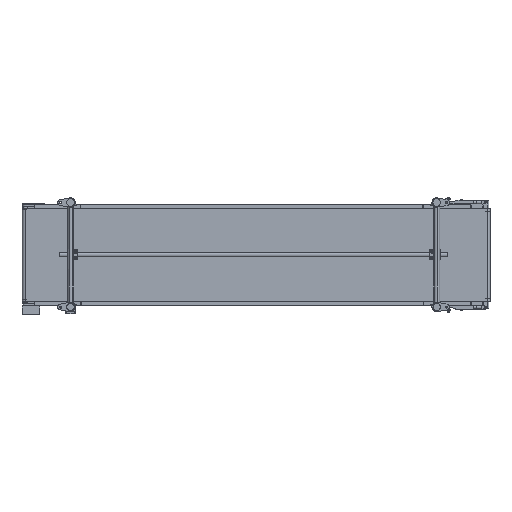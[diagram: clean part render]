
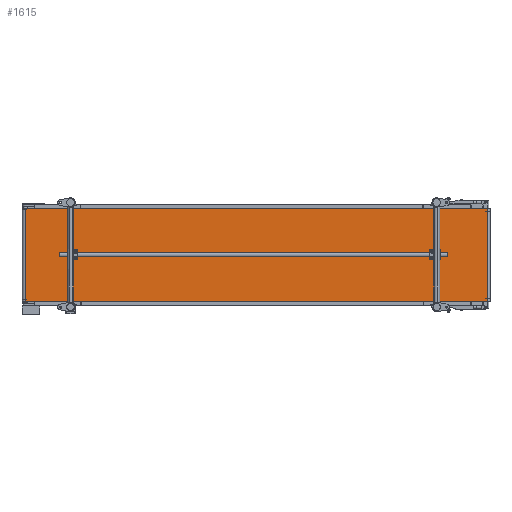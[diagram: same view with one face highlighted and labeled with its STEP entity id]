
A CAD part, front view. The second image highlights one B-rep face of the part: STEP entity #1615.
In plain terms, the highlighted planar face has unit normal (0.001, -1, 0).
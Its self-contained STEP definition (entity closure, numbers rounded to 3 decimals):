
#1615=ADVANCED_FACE('',(#5711),#5710,.F.);
#5710=PLANE('',#16303);
#5711=FACE_OUTER_BOUND('',#16304,.T.);
#16300=CARTESIAN_POINT('',(2983.948,-33.186,-310.));
#16301=DIRECTION('',(-0.001,1.,0.));
#16302=DIRECTION('',(-1.,-0.001,0.));
#16303=AXIS2_PLACEMENT_3D('',#16300,#16301,#16302);
#16304=EDGE_LOOP('',(#22672,#22673,#22674,#22675));
#22672=ORIENTED_EDGE('',*,*,#27700,.T.);
#22673=ORIENTED_EDGE('',*,*,#27701,.F.);
#22674=ORIENTED_EDGE('',*,*,#27702,.F.);
#22675=ORIENTED_EDGE('',*,*,#27703,.T.);
#27700=EDGE_CURVE('',#35430,#35431,#35432,.T.);
#27701=EDGE_CURVE('',#35438,#35431,#35439,.T.);
#27702=EDGE_CURVE('',#35445,#35438,#35446,.T.);
#27703=EDGE_CURVE('',#35445,#35430,#35452,.T.);
#35430=VERTEX_POINT('',#53248);
#35431=VERTEX_POINT('',#53249);
#35432=LINE('',#53250,#53251);
#35438=VERTEX_POINT('',#53253);
#35439=LINE('',#53254,#53255);
#35445=VERTEX_POINT('',#53257);
#35446=LINE('',#53258,#53259);
#35452=LINE('',#53261,#53262);
#53248=CARTESIAN_POINT('',(9.001,-37.2,-300.));
#53249=CARTESIAN_POINT('',(2973.948,-33.2,-300.));
#53250=CARTESIAN_POINT('',(9.001,-37.2,-300.));
#53251=VECTOR('',#53252,2964.95);
#53252=DIRECTION('',(1.,0.001,0.));
#53253=CARTESIAN_POINT('',(2973.948,-33.2,300.));
#53254=CARTESIAN_POINT('',(2973.948,-33.2,300.));
#53255=VECTOR('',#53256,600.);
#53256=DIRECTION('',(0.,0.,-1.));
#53257=CARTESIAN_POINT('',(9.001,-37.2,300.));
#53258=CARTESIAN_POINT('',(9.001,-37.2,300.));
#53259=VECTOR('',#53260,2964.95);
#53260=DIRECTION('',(1.,0.001,0.));
#53261=CARTESIAN_POINT('',(9.001,-37.2,300.));
#53262=VECTOR('',#53263,600.);
#53263=DIRECTION('',(0.,0.,-1.));
